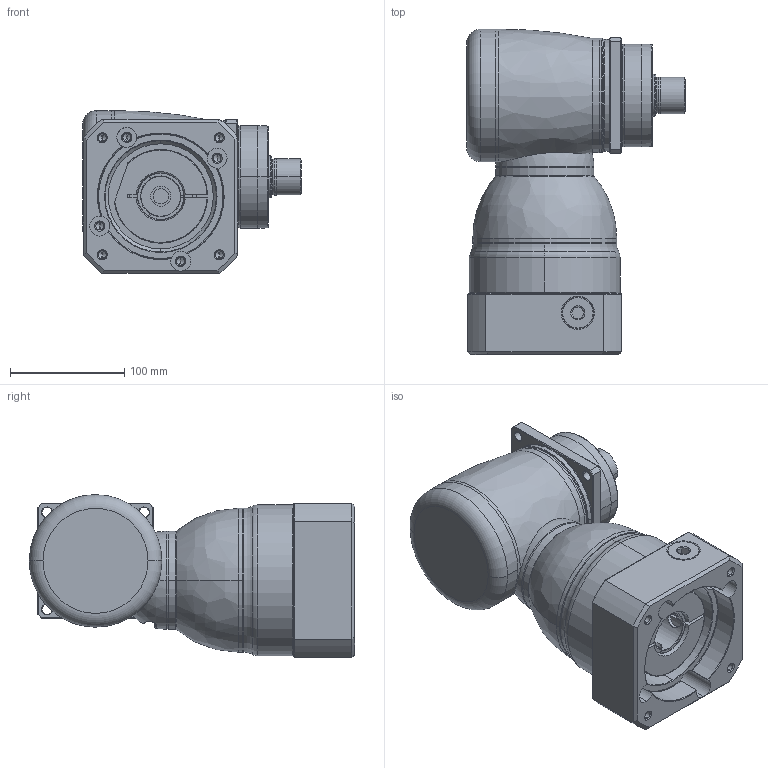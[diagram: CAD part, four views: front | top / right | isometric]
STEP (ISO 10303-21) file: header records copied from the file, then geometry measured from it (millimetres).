
FILE_DESCRIPTION((''),'2;1');
FILE_NAME('KF100_S3_1ST_35-P0409800101_ASM','2016-07-01T',('d01943'),(''),'PRO/ENGINEER BY PARAMETRIC TECHNOLOGY CORPORATION, 2008410','PRO/ENGINEER BY PARAMETRIC TECHNOLOGY CORPORATION, 2008410','');
FILE_SCHEMA(('CONFIG_CONTROL_DESIGN'));
Length unit declared in the file: millimetre
Products named in the file (11): P1008400002; P1804400001; P0915402001; P1315400001; P1007400001; P1318400401; P0409800101; P0503800012; P0912404001; 21711422019; KF100_S3_1ST_35-P0409800101_ASM
Assembly tree (10 placements, depth 2):
  KF100_S3_1ST_35-P0409800101_ASM
    P1008400002
    P1804400001
    P0915402001
    P1315400001
    P1007400001
    P1318400401
    P0409800101
    P0503800012
    P0912404001
    21711422019
Bounding box: 191.3 x 285 x 142.5 mm (x, y, z)
Volume: 3124689.4 mm3; surface area: 375611.8 mm2
Topology: 11 solids, 11 shells, 503 faces, 1143 edges, 679 vertices
Faces by surface type: cylinder 170, cone 132, plane 101, torus 64, bspline 34, sphere 2
Entity records: 20059 total; most frequent: CARTESIAN_POINT 8603, DIRECTION 2501, ORIENTED_EDGE 2246, EDGE_CURVE 1123, AXIS2_PLACEMENT_3D 1061, VERTEX_POINT 679, EDGE_LOOP 572, CIRCLE 571
